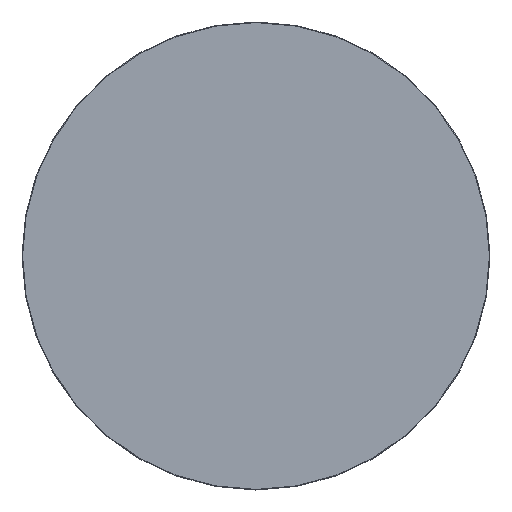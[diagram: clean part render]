
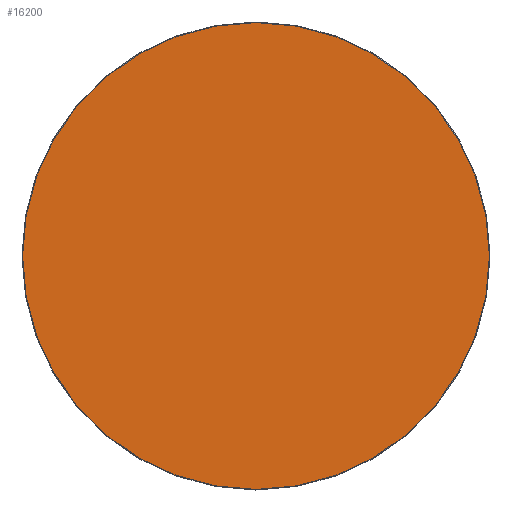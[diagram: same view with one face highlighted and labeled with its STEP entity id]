
A CAD part, top view. The second image highlights one B-rep face of the part: STEP entity #16200.
In plain terms, the highlighted planar face has unit normal (0, 0, 1).
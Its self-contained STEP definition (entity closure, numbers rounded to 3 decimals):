
#16125=CARTESIAN_POINT('',(0.,0.,20.));
#16126=DIRECTION('',(1.,0.,0.));
#16127=DIRECTION('',(0.,0.,1.));
#16128=AXIS2_PLACEMENT_3D('',#16125,#16127,#16126);
#16129=PLANE('',#16128);
#16130=CARTESIAN_POINT('',(-0.5,-598.5,20.));
#16131=VERTEX_POINT('',#16130);
#16132=CARTESIAN_POINT('',(0.5,-598.5,20.));
#16133=VERTEX_POINT('',#16132);
#16134=CARTESIAN_POINT('',(-0.5,-598.5,20.));
#16135=DIRECTION('',(1.,0.,0.));
#16136=VECTOR('',#16135,1.);
#16137=LINE('',#16134,#16136);
#16138=EDGE_CURVE('',#16131,#16133,#16137,.T.);
#16139=ORIENTED_EDGE('E105',*,*,#16138,.T.);
#16140=CARTESIAN_POINT('',(598.5,-0.5,20.));
#16141=VERTEX_POINT('',#16140);
#16142=CARTESIAN_POINT('',(0.5,-0.5,20.));
#16143=DIRECTION('',(0.,-1.,0.));
#16144=DIRECTION('',(0.,0.,1.));
#16145=AXIS2_PLACEMENT_3D('',#16142,#16144,#16143);
#16146=CIRCLE('',#16145,598.);
#16147=EDGE_CURVE('',#16133,#16141,#16146,.T.);
#16148=ORIENTED_EDGE('E107',*,*,#16147,.T.);
#16149=CARTESIAN_POINT('',(598.5,0.5,20.));
#16150=VERTEX_POINT('',#16149);
#16151=CARTESIAN_POINT('',(598.5,-0.5,20.));
#16152=DIRECTION('',(0.,1.,0.));
#16153=VECTOR('',#16152,1.);
#16154=LINE('',#16151,#16153);
#16155=EDGE_CURVE('',#16141,#16150,#16154,.T.);
#16156=ORIENTED_EDGE('E109',*,*,#16155,.T.);
#16157=CARTESIAN_POINT('',(0.5,598.5,20.));
#16158=VERTEX_POINT('',#16157);
#16159=CARTESIAN_POINT('',(0.5,0.5,20.));
#16160=DIRECTION('',(1.,0.,0.));
#16161=DIRECTION('',(0.,0.,1.));
#16162=AXIS2_PLACEMENT_3D('',#16159,#16161,#16160);
#16163=CIRCLE('',#16162,598.);
#16164=EDGE_CURVE('',#16150,#16158,#16163,.T.);
#16165=ORIENTED_EDGE('E111',*,*,#16164,.T.);
#16166=CARTESIAN_POINT('',(-0.5,598.5,20.));
#16167=VERTEX_POINT('',#16166);
#16168=CARTESIAN_POINT('',(0.5,598.5,20.));
#16169=DIRECTION('',(-1.,0.,0.));
#16170=VECTOR('',#16169,1.);
#16171=LINE('',#16168,#16170);
#16172=EDGE_CURVE('',#16158,#16167,#16171,.T.);
#16173=ORIENTED_EDGE('E113',*,*,#16172,.T.);
#16174=CARTESIAN_POINT('',(-598.5,0.5,20.));
#16175=VERTEX_POINT('',#16174);
#16176=CARTESIAN_POINT('',(-0.5,0.5,20.));
#16177=DIRECTION('',(0.,1.,0.));
#16178=DIRECTION('',(0.,0.,1.));
#16179=AXIS2_PLACEMENT_3D('',#16176,#16178,#16177);
#16180=CIRCLE('',#16179,598.);
#16181=EDGE_CURVE('',#16167,#16175,#16180,.T.);
#16182=ORIENTED_EDGE('E115',*,*,#16181,.T.);
#16183=CARTESIAN_POINT('',(-598.5,-0.5,20.));
#16184=VERTEX_POINT('',#16183);
#16185=CARTESIAN_POINT('',(-598.5,0.5,20.));
#16186=DIRECTION('',(0.,-1.,0.));
#16187=VECTOR('',#16186,1.);
#16188=LINE('',#16185,#16187);
#16189=EDGE_CURVE('',#16175,#16184,#16188,.T.);
#16190=ORIENTED_EDGE('E117',*,*,#16189,.T.);
#16191=CARTESIAN_POINT('',(-0.5,-0.5,20.));
#16192=DIRECTION('',(-1.,0.,0.));
#16193=DIRECTION('',(0.,0.,1.));
#16194=AXIS2_PLACEMENT_3D('',#16191,#16193,#16192);
#16195=CIRCLE('',#16194,598.);
#16196=EDGE_CURVE('',#16184,#16131,#16195,.T.);
#16197=ORIENTED_EDGE('E119',*,*,#16196,.T.);
#16198=EDGE_LOOP('',(#16139,#16148,#16156,#16165,#16173,#16182,#16190,#16197));
#16199=FACE_OUTER_BOUND('',#16198,.T.);
#16200=ADVANCED_FACE('F2',(#16199),#16129,.T.);
